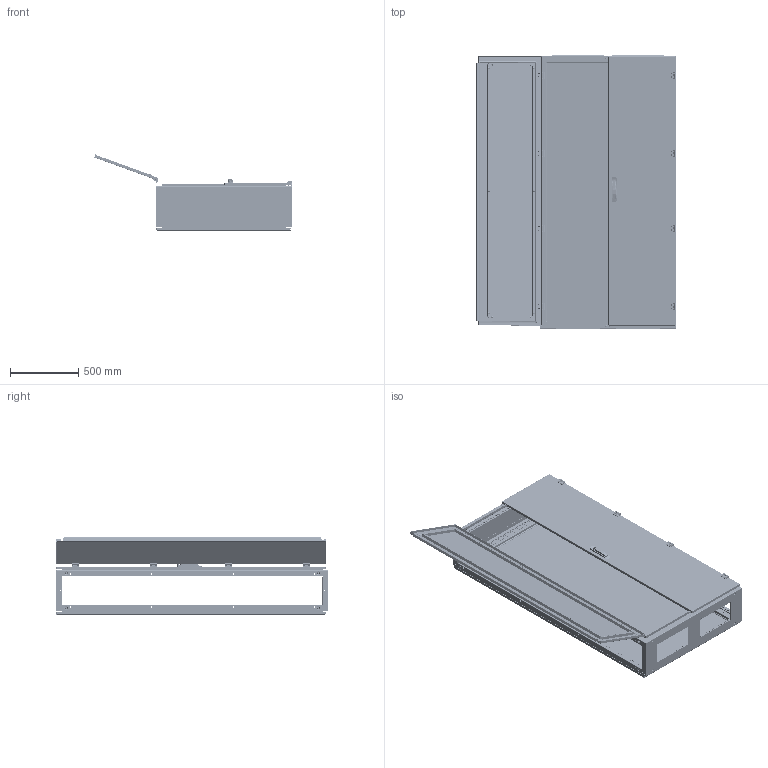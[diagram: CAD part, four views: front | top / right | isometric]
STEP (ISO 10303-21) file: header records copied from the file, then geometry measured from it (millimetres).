
FILE_DESCRIPTION (( 'STEP AP214' ), '1' );
FILE_NAME ('QA201003.step', '2011-08-10T12:05:53', ( 'Radek Veselý' ), ( 'Siemens and Partners' ), 'SwSTEP 2.0', 'SolidWorks 2006303', '' );
FILE_SCHEMA (( 'AUTOMOTIVE_DESIGN' ));
Length unit declared in the file: millimetre
Products named in the file (1): QA201003
Bounding box: 1468.78 x 2004.5 x 566.2 mm (x, y, z)
Volume: 13468592.1 mm3; surface area: 15548350 mm2
Topology: 156 solids, 156 shells, 8716 faces, 24080 edges, 15673 vertices
Faces by surface type: plane 4328, cylinder 3626, cone 442, bspline 267, torus 53
Entity records: 367095 total; most frequent: CARTESIAN_POINT 66069, DIRECTION 47938, ORIENTED_EDGE 47576, EDGE_CURVE 23788, AXIS2_PLACEMENT_3D 16332, VERTEX_POINT 15673, VECTOR 15274, LINE 15274
